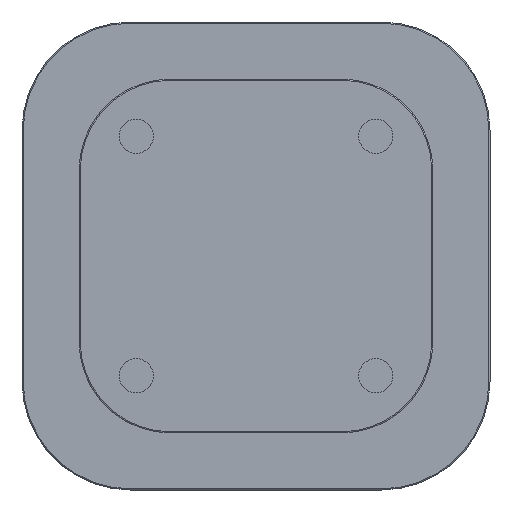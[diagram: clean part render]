
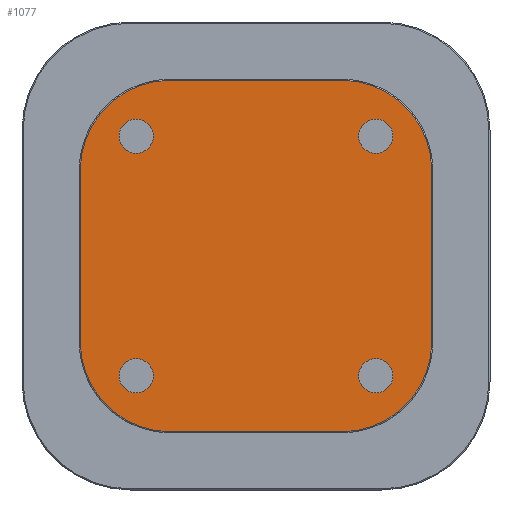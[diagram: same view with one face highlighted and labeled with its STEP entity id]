
A CAD part, front view. The second image highlights one B-rep face of the part: STEP entity #1077.
In plain terms, the highlighted planar face has unit normal (0, -1, 0).
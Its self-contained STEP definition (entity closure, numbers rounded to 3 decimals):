
#78=PLANE('',#1209);
#136=FACE_OUTER_BOUND('',#213,.T.);
#213=EDGE_LOOP('',(#889,#890,#891,#892,#893,#894,#895,#896));
#269=CIRCLE('',#1181,79.);
#275=CIRCLE('',#1189,79.);
#279=CIRCLE('',#1195,79.);
#283=CIRCLE('',#1201,79.);
#359=LINE('',#1782,#444);
#361=LINE('',#1794,#446);
#363=LINE('',#1806,#448);
#365=LINE('',#1815,#450);
#444=VECTOR('',#1421,10.);
#446=VECTOR('',#1435,10.);
#448=VECTOR('',#1449,10.);
#450=VECTOR('',#1461,10.);
#521=VERTEX_POINT('',#1770);
#522=VERTEX_POINT('',#1772);
#524=VERTEX_POINT('',#1778);
#526=VERTEX_POINT('',#1784);
#528=VERTEX_POINT('',#1790);
#530=VERTEX_POINT('',#1796);
#532=VERTEX_POINT('',#1802);
#534=VERTEX_POINT('',#1808);
#635=EDGE_CURVE('',#521,#522,#269,.T.);
#640=EDGE_CURVE('',#522,#524,#359,.T.);
#643=EDGE_CURVE('',#524,#526,#275,.T.);
#646=EDGE_CURVE('',#526,#528,#361,.T.);
#649=EDGE_CURVE('',#528,#530,#279,.T.);
#652=EDGE_CURVE('',#530,#532,#363,.T.);
#655=EDGE_CURVE('',#532,#534,#283,.T.);
#657=EDGE_CURVE('',#534,#521,#365,.T.);
#889=ORIENTED_EDGE('',*,*,#635,.F.);
#890=ORIENTED_EDGE('',*,*,#657,.F.);
#891=ORIENTED_EDGE('',*,*,#655,.F.);
#892=ORIENTED_EDGE('',*,*,#652,.F.);
#893=ORIENTED_EDGE('',*,*,#649,.F.);
#894=ORIENTED_EDGE('',*,*,#646,.F.);
#895=ORIENTED_EDGE('',*,*,#643,.F.);
#896=ORIENTED_EDGE('',*,*,#640,.F.);
#1077=ADVANCED_FACE('',(#136),#78,.T.);
#1181=AXIS2_PLACEMENT_3D('',#1773,#1410,#1411);
#1189=AXIS2_PLACEMENT_3D('',#1788,#1428,#1429);
#1195=AXIS2_PLACEMENT_3D('',#1800,#1442,#1443);
#1201=AXIS2_PLACEMENT_3D('',#1812,#1456,#1457);
#1209=AXIS2_PLACEMENT_3D('',#1834,#1481,#1482);
#1410=DIRECTION('center_axis',(0.,1.,0.));
#1411=DIRECTION('ref_axis',(-0.707,0.,0.707));
#1421=DIRECTION('',(1.,0.,0.));
#1428=DIRECTION('center_axis',(0.,1.,0.));
#1429=DIRECTION('ref_axis',(0.707,0.,0.707));
#1435=DIRECTION('',(0.,0.,-1.));
#1442=DIRECTION('center_axis',(0.,1.,0.));
#1443=DIRECTION('ref_axis',(0.707,0.,-0.707));
#1449=DIRECTION('',(-1.,0.,0.));
#1456=DIRECTION('center_axis',(0.,1.,0.));
#1457=DIRECTION('ref_axis',(-0.707,0.,-0.707));
#1461=DIRECTION('',(0.,0.,1.));
#1481=DIRECTION('center_axis',(0.,-1.,0.));
#1482=DIRECTION('ref_axis',(0.,0.,-1.));
#1770=CARTESIAN_POINT('',(-154.,5.,75.));
#1772=CARTESIAN_POINT('',(-75.,5.,154.));
#1773=CARTESIAN_POINT('Origin',(-75.,5.,75.));
#1778=CARTESIAN_POINT('',(75.,5.,154.));
#1782=CARTESIAN_POINT('',(-37.5,5.,154.));
#1784=CARTESIAN_POINT('',(154.,5.,75.));
#1788=CARTESIAN_POINT('Origin',(75.,5.,75.));
#1790=CARTESIAN_POINT('',(154.,5.,-75.));
#1794=CARTESIAN_POINT('',(154.,5.,37.5));
#1796=CARTESIAN_POINT('',(75.,5.,-154.));
#1800=CARTESIAN_POINT('Origin',(75.,5.,-75.));
#1802=CARTESIAN_POINT('',(-75.,5.,-154.));
#1806=CARTESIAN_POINT('',(37.5,5.,-154.));
#1808=CARTESIAN_POINT('',(-154.,5.,-75.));
#1812=CARTESIAN_POINT('Origin',(-75.,5.,-75.));
#1815=CARTESIAN_POINT('',(-154.,5.,-37.5));
#1834=CARTESIAN_POINT('Origin',(0.,5.,0.));
